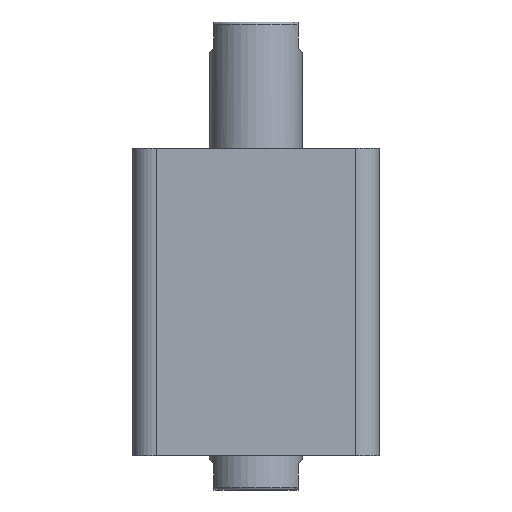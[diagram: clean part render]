
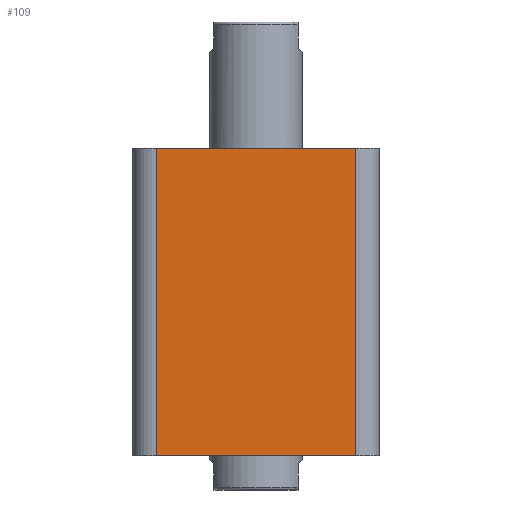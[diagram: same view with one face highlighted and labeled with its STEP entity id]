
A CAD part, front view. The second image highlights one B-rep face of the part: STEP entity #109.
In plain terms, the highlighted planar face has unit normal (0, -1, 0).
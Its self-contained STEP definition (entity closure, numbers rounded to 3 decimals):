
#109 = ADVANCED_FACE ( 'NONE', ( #333 ), #1393, .F. ) ;
#333 = FACE_OUTER_BOUND ( 'NONE', #3049, .T. ) ;
#686 = LINE ( 'NONE', #2310, #688 ) ;
#688 = VECTOR ( 'NONE', #2311, 1000. ) ;
#692 = LINE ( 'NONE', #2313, #694 ) ;
#693 = LINE ( 'NONE', #2322, #696 ) ;
#694 = VECTOR ( 'NONE', #2314, 1000. ) ;
#695 = LINE ( 'NONE', #2324, #698 ) ;
#696 = VECTOR ( 'NONE', #2323, 1000. ) ;
#698 = VECTOR ( 'NONE', #2325, 1000. ) ;
#1391 = CARTESIAN_POINT ( 'NONE',  ( -47., -47., 117. ) ) ;
#1393 = PLANE ( 'NONE',  #2063 ) ;
#1395 = DIRECTION ( 'NONE',  ( 0., 1., 0. ) ) ;
#1396 = DIRECTION ( 'NONE',  ( 0., 0., 1. ) ) ;
#1987 = EDGE_CURVE ( 'NONE', #3139, #3127, #686, .T. ) ;
#1991 = EDGE_CURVE ( 'NONE', #3127, #3126, #692, .T. ) ;
#1992 = EDGE_CURVE ( 'NONE', #3139, #3136, #693, .T. ) ;
#1993 = EDGE_CURVE ( 'NONE', #3126, #3136, #695, .T. ) ;
#2063 = AXIS2_PLACEMENT_3D ( 'NONE', #1391, #1395, #1396 ) ;
#2310 = CARTESIAN_POINT ( 'NONE',  ( -38., -47., 117. ) ) ;
#2311 = DIRECTION ( 'NONE',  ( 0., 0., -1. ) ) ;
#2313 = CARTESIAN_POINT ( 'NONE',  ( -47., -47., 0. ) ) ;
#2314 = DIRECTION ( 'NONE',  ( 1., 0., 0. ) ) ;
#2322 = CARTESIAN_POINT ( 'NONE',  ( -47., -47., 117. ) ) ;
#2323 = DIRECTION ( 'NONE',  ( 1., 0., 0. ) ) ;
#2324 = CARTESIAN_POINT ( 'NONE',  ( 38., -47., 117. ) ) ;
#2325 = DIRECTION ( 'NONE',  ( 0., 0., 1. ) ) ;
#2405 = CARTESIAN_POINT ( 'NONE',  ( 38., -47., 0. ) ) ;
#2406 = CARTESIAN_POINT ( 'NONE',  ( -38., -47., 0. ) ) ;
#2415 = CARTESIAN_POINT ( 'NONE',  ( 38., -47., 117. ) ) ;
#2418 = CARTESIAN_POINT ( 'NONE',  ( -38., -47., 117. ) ) ;
#2762 = ORIENTED_EDGE ( 'NONE', *, *, #1992, .F. ) ;
#2763 = ORIENTED_EDGE ( 'NONE', *, *, #1987, .T. ) ;
#2764 = ORIENTED_EDGE ( 'NONE', *, *, #1991, .T. ) ;
#2765 = ORIENTED_EDGE ( 'NONE', *, *, #1993, .T. ) ;
#3049 = EDGE_LOOP ( 'NONE', ( #2762, #2763, #2764, #2765 ) ) ;
#3126 = VERTEX_POINT ( 'NONE', #2405 ) ;
#3127 = VERTEX_POINT ( 'NONE', #2406 ) ;
#3136 = VERTEX_POINT ( 'NONE', #2415 ) ;
#3139 = VERTEX_POINT ( 'NONE', #2418 ) ;
